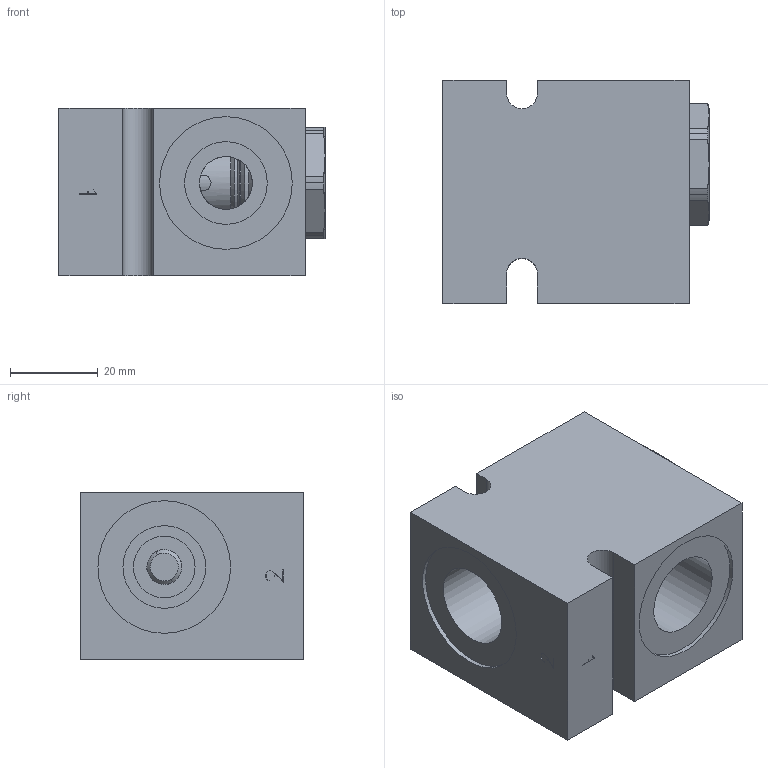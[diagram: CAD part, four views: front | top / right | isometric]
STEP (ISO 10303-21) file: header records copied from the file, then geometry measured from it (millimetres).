
FILE_DESCRIPTION( ( 'Unknown' ), '1' );
FILE_NAME( 'G:/Graphic Design/Graphic Design 2/Data Sheets/MANUAL_MECH OPERATED VALVES/4_STEP/Direct Acting Check Valves/D-DECVA00.stp', 'Unknown', ( 'Unknown' ), ( 'Unknown' ), 'PSStep 16.0.42', 'Unknown', ' ' );
FILE_SCHEMA( ( 'AUTOMOTIVE_DESIGN { 1 0 10303 214 1 1 1 1 }' ) );
Length unit declared in the file: millimetre
Products named in the file (8): DECVA00_2; DECVA00-3D Full2; DECVA00-3D Full3; DECVA00-3D Full4; DECVA00-3D Full1; Assem1; B-DDEC2
Assembly tree (7 placements, depth 3):
  Assem1
    B-DDEC2
    DECVA00_2
      DECVA00-3D Full2
      DECVA00-3D Full3
      DECVA00-3D Full4
      DECVA00-3D Full1
      DECVA00-3D Full1
Bounding box: 60.56 x 50.8 x 38.1 mm (x, y, z)
Surface area: 24152.1 mm2 (no closed solid volume)
Topology: 0 solids, 200 shells, 200 faces, 958 edges, 934 vertices
Faces by surface type: plane 76, cylinder 65, cone 53, torus 6
Full cylindrical faces by diameter (mm): 0.2 x2, 12 x1, 13.043 x1, 14 x1, 15.735 x1, 15.9 x1, 17.043 x1, 18.8 x4, 20.262 x2, 30.17 x2, 30.175 x1
Entity records: 14026 total; most frequent: CARTESIAN_POINT 5749, DIRECTION 1192, VERTEX_POINT 924, ORIENTED_EDGE 922, EDGE_CURVE 922, AXIS2_PLACEMENT_3D 435, B_SPLINE_CURVE_WITH_KNOTS 374, LINE 322
